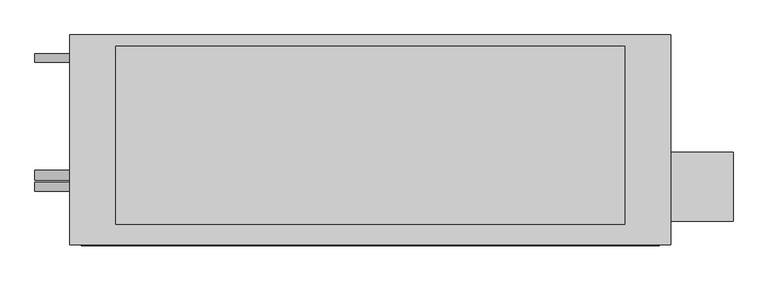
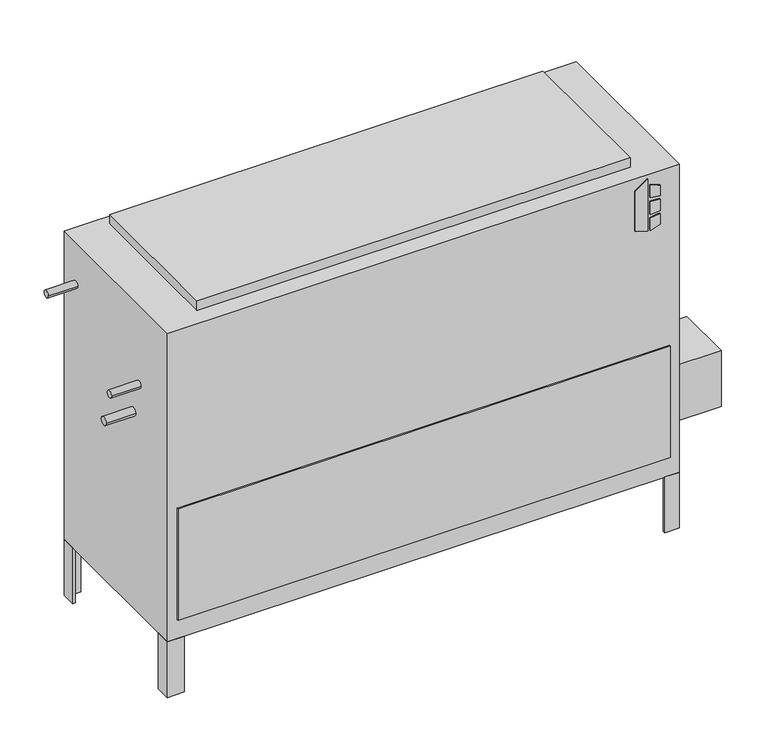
"""IFC4 building model written with IfcOpenShell, lengths in millimetres: proxy geometry, Concealed_High_Capacity_Vertical_Fan_Coil_Unit_-_VEY_-_IEC_-_2-Pipe_Cool-EHeat_LH_2022 : Size 18 - 277v/60Hz/1Ph - 6 Row 12.0kW."""

from ifc_helpers import new_model, si_unit, point, frame, frame_2d, origin, origin_with_axes, place, context, project, spatial, polyline, circle_curve, trimmed, segment, composite_curve, outline, extrude, source, transform, mapped, element, save


def mechanical_equipment_8c8115f7(model_context):
    return source(origin(), model_context, "Body", "SweptSolid", [
        extrude(outline(polyline([(698.9230703, 696.9868862), (688.975, 729.1602728), (831.1459244, 729.1602728), (808.1239183, 696.9868862), (698.9230703, 696.9868862)])), frame((0.0, -471.4875, 0.0), z_axis=(0.0, 1.0, 0.0), x_axis=(0.0, 0.0, 1.0)), (0.0, 0.0, 1.0), 3.175),
        extrude(outline(polyline([(777.9223557, 735.9186058), (774.7199632, 762.0), (803.9488042, 762.0), (812.0132193, 735.9186058), (777.9223557, 735.9186058)])), frame((0.0, -471.4875, 0.0), z_axis=(0.0, 1.0, 0.0), x_axis=(0.0, 0.0, 1.0)), (0.0, 0.0, 1.0), 3.175),
        extrude(outline(polyline([(726.0588288, 762.0), (722.3933279, 735.9186058), (688.975, 735.9186058), (697.6092372, 762.0), (726.0588288, 762.0)])), frame((0.0, -471.4875, 0.0), z_axis=(0.0, 1.0, 0.0), x_axis=(0.0, 0.0, 1.0)), (0.0, 0.0, 1.0), 3.175),
        extrude(outline(polyline([(765.3739903, 762.0), (767.6558166, 735.9186058), (731.7182681, 735.9186058), (734.4595331, 762.0), (765.3739903, 762.0)])), frame((0.0, -471.4875, 0.0), z_axis=(0.0, 1.0, 0.0), x_axis=(0.0, 0.0, 1.0)), (0.0, 0.0, 1.0), 3.175),
        extrude(outline(polyline([(812.8, -417.5125), (812.8, -265.1125), (949.325, -265.1125), (949.325, -417.5125), (812.8, -417.5125)])), frame((0.0, 0.0, 101.6), z_axis=(0.0, 0.0, 1.0), x_axis=(1.0, 0.0, 0.0)), (0.0, 0.0, 1.0), 152.4),
        extrude(outline(polyline([(812.8, -46.0375), (806.45, -46.0375), (806.45, -14.2875), (774.7, -14.2875), (774.7, -7.9375), (812.8, -7.9375), (812.8, -46.0375)])), frame((0.0, 0.0, -152.4), z_axis=(0.0, 0.0, 1.0), x_axis=(1.0, 0.0, 0.0)), (0.0, 0.0, 1.0), 152.4),
        extrude(outline(polyline([(-469.9, -7.9375), (-469.9, -14.2875), (-501.65, -14.2875), (-501.65, -46.0375), (-508.0, -46.0375), (-508.0, -7.9375), (-469.9, -7.9375)])), frame((0.0, 0.0, -152.4), z_axis=(0.0, 0.0, 1.0), x_axis=(1.0, 0.0, 0.0)), (0.0, 0.0, 1.0), 152.4),
        extrude(outline(polyline([(774.7, -468.3125), (774.7, -461.9625), (806.45, -461.9625), (806.45, -430.2125), (812.8, -430.2125), (812.8, -468.3125), (774.7, -468.3125)])), frame((0.0, 0.0, -152.4), z_axis=(0.0, 0.0, 1.0), x_axis=(1.0, 0.0, 0.0)), (0.0, 0.0, 1.0), 152.4),
        extrude(outline(polyline([(-508.0, -428.1199163), (-501.65, -428.1199163), (-501.65, -461.9625), (-464.5318533, -461.9625), (-464.5318533, -468.3125), (-508.0, -468.3125), (-508.0, -428.1199163)])), frame((0.0, 0.0, -152.4), z_axis=(0.0, 0.0, 1.0), x_axis=(1.0, 0.0, 0.0)), (0.0, 0.0, 1.0), 152.4),
        extrude(outline(polyline([(711.2, -33.3375), (711.2, -423.8625), (-406.4, -423.8625), (-406.4, -33.3375), (711.2, -33.3375)])), frame((0.0, 0.0, 841.375), z_axis=(0.0, 0.0, 1.0), x_axis=(1.0, 0.0, 0.0)), (0.0, 0.0, 1.0), 25.4),
        extrude(outline(polyline([(787.4, -471.4875), (-482.6, -471.4875), (-482.6, -468.3125), (787.4, -468.3125), (787.4, -471.4875)])), frame((0.0, 0.0, 50.8), z_axis=(0.0, 0.0, 1.0), x_axis=(1.0, 0.0, 0.0)), (0.0, 0.0, 1.0), 304.8),
        extrude(outline(composite_curve([segment(trimmed(circle_curve(frame_2d((-58.7375, 727.075)), 9.525), [point((-68.2625, 727.075))], [point((-49.2125, 727.075))], False, "CARTESIAN"), True, "CONTINUOUS"), segment(trimmed(circle_curve(frame_2d((-58.7375, 727.075)), 9.525), [point((-49.2125, 727.075))], [point((-68.2625, 727.075))], False, "CARTESIAN"), True, "CONTINUOUS")], self_intersect=False)), frame((-584.2, 0.0, 0.0), z_axis=(1.0, 0.0, 0.0), x_axis=(0.0, 1.0, 0.0)), (0.0, 0.0, 1.0), 76.2),
        extrude(outline(composite_curve([segment(trimmed(circle_curve(frame_2d((-341.3125, 625.475)), 9.525), [point((-350.8375, 625.475))], [point((-331.7875, 625.475))], False, "CARTESIAN"), True, "CONTINUOUS"), segment(trimmed(circle_curve(frame_2d((-341.3125, 625.475)), 9.525), [point((-331.7875, 625.475))], [point((-350.8375, 625.475))], False, "CARTESIAN"), True, "CONTINUOUS")], self_intersect=False)), frame((-584.2, 0.0, 0.0), z_axis=(1.0, 0.0, 0.0), x_axis=(0.0, 1.0, 0.0)), (0.0, 0.0, 1.0), 76.2),
        extrude(outline(composite_curve([segment(trimmed(circle_curve(frame_2d((-315.9125, 536.575)), 11.1125), [point((-327.025, 536.575))], [point((-304.8, 536.575))], False, "CARTESIAN"), True, "CONTINUOUS"), segment(trimmed(circle_curve(frame_2d((-315.9125, 536.575)), 11.1125), [point((-304.8, 536.575))], [point((-327.025, 536.575))], False, "CARTESIAN"), True, "CONTINUOUS")], self_intersect=False)), frame((-584.2, 0.0, 0.0), z_axis=(1.0, 0.0, 0.0), x_axis=(0.0, 1.0, 0.0)), (0.0, 0.0, 1.0), 76.2),
        extrude(outline(polyline([(812.8, -7.9375), (812.8, -468.3125), (-508.0, -468.3125), (-508.0, -7.9375), (812.8, -7.9375)])), origin_with_axes(), (0.0, 0.0, 1.0), 841.375),
    ])


if __name__ == "__main__":
    model = new_model("IFC4")
    model_context = context("Model", 3, world=origin())
    ifc_project = project(units=[si_unit("LENGTHUNIT", "METRE", prefix="MILLI")], contexts=[model_context])
    site = spatial("IfcSite", under=ifc_project)
    building = spatial("IfcBuilding", under=site)
    placement = place(None, origin())
    mechanical_equipment_shape = mechanical_equipment_8c8115f7(model_context)
    element("IfcBuildingElementProxy", 1, Name="Concealed_High_Capacity_Vertical_Fan_Coil_Unit_-_VEY_-_IEC_-_2-Pipe_Cool-EHeat_LH_2022 : Size 18 - 277v/60Hz/1Ph - 6 Row 12.0kW", ObjectType="Concealed_High_Capacity_Vertical_Fan_Coil_Unit_-_VEY_-_IEC_-_2-Pipe_Cool-EHeat_LH_2022 : Size 18 - 277v/60Hz/1Ph - 6 Row 12.0kW", at=placement, inside=building, context=model_context, shape_type="MappedRepresentation", body=[
        mapped(mechanical_equipment_shape, transform((0.0, 0.0, 0.0), x_axis=(1.0, 0.0, 0.0), y_axis=(0.0, 1.0, 0.0), z_axis=(0.0, 0.0, 1.0))),
    ])
    save(model, "model.ifc")
